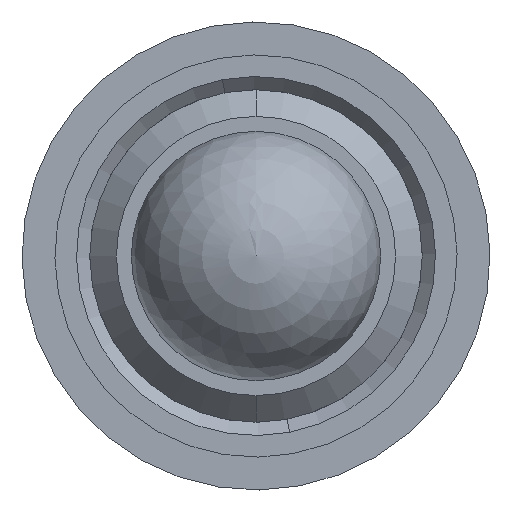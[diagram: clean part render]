
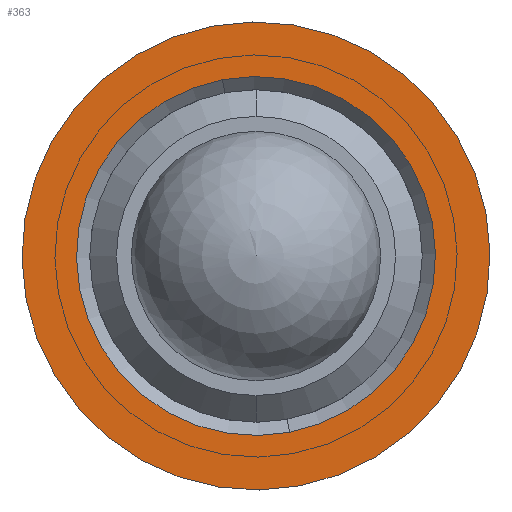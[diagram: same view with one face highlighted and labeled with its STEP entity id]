
A CAD part, left-side view. The second image highlights one B-rep face of the part: STEP entity #363.
In plain terms, the highlighted planar face has unit normal (-1, 0, 0).
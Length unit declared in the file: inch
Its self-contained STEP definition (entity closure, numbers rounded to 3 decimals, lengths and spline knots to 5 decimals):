
#33 = CIRCLE ( 'NONE', #765, 0.176 ) ;
#60 = FACE_BOUND ( 'NONE', #241, .T. ) ;
#98 = ORIENTED_EDGE ( 'NONE', *, *, #595, .T. ) ;
#189 = VERTEX_POINT ( 'NONE', #405 ) ;
#241 = EDGE_LOOP ( 'NONE', ( #98, #1249 ) ) ;
#277 = CARTESIAN_POINT ( 'NONE',  ( 0.79094, 1.94858, 2.72025 ) ) ;
#282 = VERTEX_POINT ( 'NONE', #1105 ) ;
#284 = DIRECTION ( 'NONE',  ( 0., -0.187, -0.982 ) ) ;
#288 = DIRECTION ( 'NONE',  ( 1., 0., 0. ) ) ;
#291 = DIRECTION ( 'NONE',  ( 1., 0., 0. ) ) ;
#292 = CARTESIAN_POINT ( 'NONE',  ( 0.79094, 1.94858, 2.72025 ) ) ;
#293 = DIRECTION ( 'NONE',  ( 0., -0.187, -0.982 ) ) ;
#306 = AXIS2_PLACEMENT_3D ( 'NONE', #292, #291, #284 ) ;
#363 = ADVANCED_FACE ( 'NONE', ( #60, #558 ), #1127, .F. ) ;
#386 = CARTESIAN_POINT ( 'NONE',  ( 0.79094, 1.98154, 2.89314 ) ) ;
#405 = CARTESIAN_POINT ( 'NONE',  ( 0.79094, 1.97386, 2.85286 ) ) ;
#454 = CIRCLE ( 'NONE', #306, 0.135 ) ;
#515 = CARTESIAN_POINT ( 'NONE',  ( 0.79094, 1.94858, 2.72025 ) ) ;
#533 = VERTEX_POINT ( 'NONE', #386 ) ;
#558 = FACE_OUTER_BOUND ( 'NONE', #1311, .T. ) ;
#595 = EDGE_CURVE ( 'NONE', #189, #282, #454, .T. ) ;
#624 = DIRECTION ( 'NONE',  ( 0., 0.187, 0.982 ) ) ;
#765 = AXIS2_PLACEMENT_3D ( 'NONE', #1327, #984, #955 ) ;
#862 = DIRECTION ( 'NONE',  ( 1., 0., 0. ) ) ;
#884 = CIRCLE ( 'NONE', #1207, 0.135 ) ;
#929 = ORIENTED_EDGE ( 'NONE', *, *, #1376, .T. ) ;
#955 = DIRECTION ( 'NONE',  ( 0., 0.187, 0.982 ) ) ;
#958 = DIRECTION ( 'NONE',  ( 0., -0.187, -0.982 ) ) ;
#984 = DIRECTION ( 'NONE',  ( -1., 0., 0. ) ) ;
#1000 = CARTESIAN_POINT ( 'NONE',  ( 0.79094, 1.94858, 2.72025 ) ) ;
#1021 = ORIENTED_EDGE ( 'NONE', *, *, #1525, .T. ) ;
#1055 = CARTESIAN_POINT ( 'NONE',  ( 0.79094, 1.91562, 2.54736 ) ) ;
#1105 = CARTESIAN_POINT ( 'NONE',  ( 0.79094, 1.9233, 2.58764 ) ) ;
#1110 = VERTEX_POINT ( 'NONE', #1055 ) ;
#1120 = AXIS2_PLACEMENT_3D ( 'NONE', #1000, #862, #958 ) ;
#1127 = PLANE ( 'NONE',  #1120 ) ;
#1203 = EDGE_CURVE ( 'NONE', #282, #189, #884, .T. ) ;
#1206 = AXIS2_PLACEMENT_3D ( 'NONE', #515, #1318, #624 ) ;
#1207 = AXIS2_PLACEMENT_3D ( 'NONE', #277, #288, #293 ) ;
#1249 = ORIENTED_EDGE ( 'NONE', *, *, #1203, .T. ) ;
#1311 = EDGE_LOOP ( 'NONE', ( #1021, #929 ) ) ;
#1318 = DIRECTION ( 'NONE',  ( -1., 0., 0. ) ) ;
#1327 = CARTESIAN_POINT ( 'NONE',  ( 0.79094, 1.94858, 2.72025 ) ) ;
#1376 = EDGE_CURVE ( 'NONE', #1110, #533, #33, .T. ) ;
#1450 = CIRCLE ( 'NONE', #1206, 0.176 ) ;
#1525 = EDGE_CURVE ( 'NONE', #533, #1110, #1450, .T. ) ;
